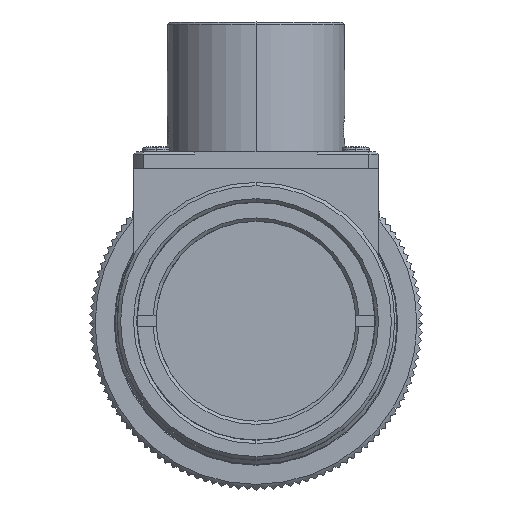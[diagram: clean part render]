
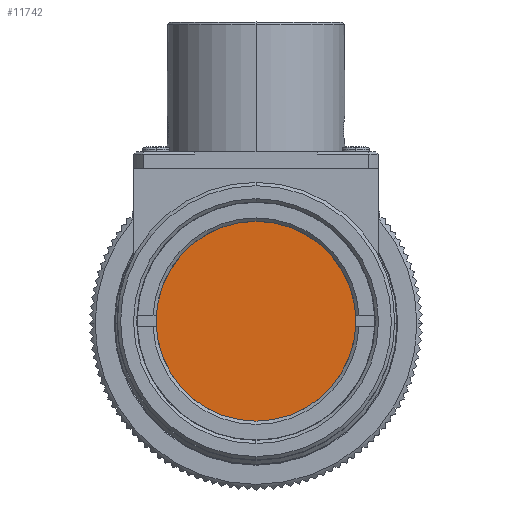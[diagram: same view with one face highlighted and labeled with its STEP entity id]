
A CAD part, top view. The second image highlights one B-rep face of the part: STEP entity #11742.
In plain terms, the highlighted planar face has unit normal (0, 0, 1).
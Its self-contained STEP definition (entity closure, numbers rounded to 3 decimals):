
#8017 = DIRECTION ( 'NONE',  ( 0., 0., -1. ) ) ;
#8018 = CARTESIAN_POINT ( 'NONE',  ( 0., 0., 42.139 ) ) ;
#8026 = AXIS2_PLACEMENT_3D ( 'NONE', #8018, #8017, #8042 ) ;
#8034 = PLANE ( 'NONE',  #8026 ) ;
#8042 = DIRECTION ( 'NONE',  ( -1., 0., 0. ) ) ;
#8496 = FACE_OUTER_BOUND ( 'NONE', #11713, .T. ) ;
#11711 = ORIENTED_EDGE ( 'NONE', *, *, #25175, .T. ) ;
#11713 = EDGE_LOOP ( 'NONE', ( #11711, #11740 ) ) ;
#11740 = ORIENTED_EDGE ( 'NONE', *, *, #25814, .T. ) ;
#11742 = ADVANCED_FACE ( 'NONE', ( #8496 ), #8034, .F. ) ;
#21932 = AXIS2_PLACEMENT_3D ( 'NONE', #21961, #21960, #21959 ) ;
#21959 = DIRECTION ( 'NONE',  ( 1., 0., 0. ) ) ;
#21960 = DIRECTION ( 'NONE',  ( 0., 0., 1. ) ) ;
#21961 = CARTESIAN_POINT ( 'NONE',  ( 0., 0., 42.139 ) ) ;
#21969 = CARTESIAN_POINT ( 'NONE',  ( 9.3, 0., 42.139 ) ) ;
#21972 = CIRCLE ( 'NONE', #21932, 9.3 ) ;
#22076 = CARTESIAN_POINT ( 'NONE',  ( -9.3, 0., 42.139 ) ) ;
#23399 = DIRECTION ( 'NONE',  ( 1., 0., 0. ) ) ;
#23400 = DIRECTION ( 'NONE',  ( 0., 0., 1. ) ) ;
#23401 = CARTESIAN_POINT ( 'NONE',  ( 0., 0., 42.139 ) ) ;
#23402 = AXIS2_PLACEMENT_3D ( 'NONE', #23401, #23400, #23399 ) ;
#23403 = CIRCLE ( 'NONE', #23402, 9.3 ) ;
#25174 = VERTEX_POINT ( 'NONE', #21969 ) ;
#25175 = EDGE_CURVE ( 'NONE', #25238, #25174, #21972, .T. ) ;
#25238 = VERTEX_POINT ( 'NONE', #22076 ) ;
#25814 = EDGE_CURVE ( 'NONE', #25174, #25238, #23403, .T. ) ;
